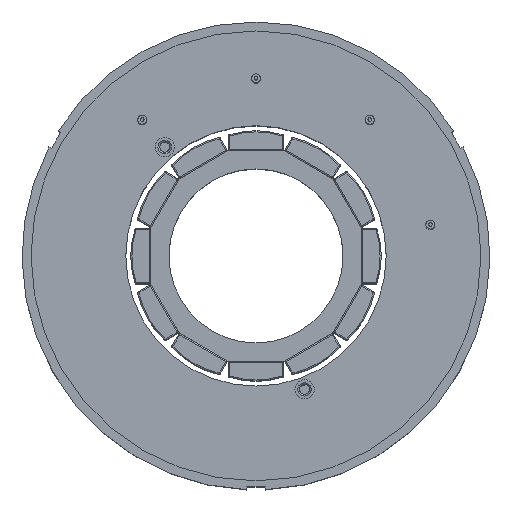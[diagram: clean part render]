
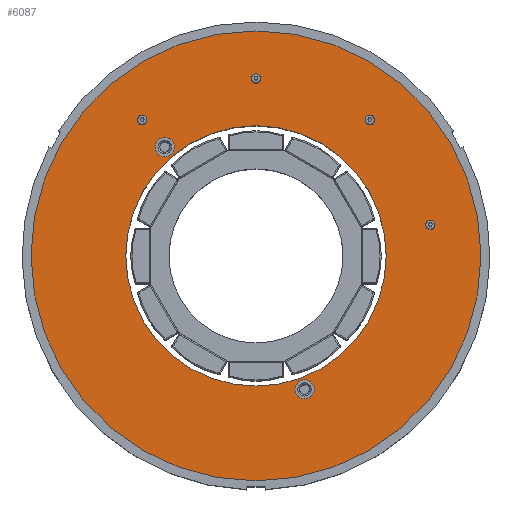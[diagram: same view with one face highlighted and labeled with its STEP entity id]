
A CAD part, top view. The second image highlights one B-rep face of the part: STEP entity #6087.
In plain terms, the highlighted planar face has unit normal (0, 0, 1).
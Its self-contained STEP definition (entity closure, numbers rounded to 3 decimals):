
#1245=PLANE('',#6717);
#1396=ORIENTED_EDGE('',*,*,#2953,.T.);
#1397=ORIENTED_EDGE('',*,*,#2955,.T.);
#1398=ORIENTED_EDGE('',*,*,#2956,.T.);
#1399=ORIENTED_EDGE('',*,*,#2957,.T.);
#1400=ORIENTED_EDGE('',*,*,#2958,.T.);
#1401=ORIENTED_EDGE('',*,*,#2959,.T.);
#1402=ORIENTED_EDGE('',*,*,#2960,.T.);
#1403=ORIENTED_EDGE('',*,*,#2961,.F.);
#2953=EDGE_CURVE('',#4062,#4062,#4794,.T.);
#2955=EDGE_CURVE('',#4064,#4064,#4796,.T.);
#2956=EDGE_CURVE('',#4065,#4065,#4797,.T.);
#2957=EDGE_CURVE('',#4066,#4066,#4798,.T.);
#2958=EDGE_CURVE('',#4067,#4067,#4799,.T.);
#2959=EDGE_CURVE('',#4068,#4068,#4800,.T.);
#2960=EDGE_CURVE('',#4069,#4069,#4801,.T.);
#2961=EDGE_CURVE('',#4070,#4070,#4802,.T.);
#4062=VERTEX_POINT('',#9141);
#4064=VERTEX_POINT('',#9146);
#4065=VERTEX_POINT('',#9149);
#4066=VERTEX_POINT('',#9151);
#4067=VERTEX_POINT('',#9153);
#4068=VERTEX_POINT('',#9155);
#4069=VERTEX_POINT('',#9157);
#4070=VERTEX_POINT('',#9159);
#4794=CIRCLE('',#6713,1.6);
#4796=CIRCLE('',#6716,1.6);
#4797=CIRCLE('',#6718,0.5);
#4798=CIRCLE('',#6719,0.5);
#4799=CIRCLE('',#6720,0.5);
#4800=CIRCLE('',#6721,0.5);
#4801=CIRCLE('',#6722,21.7);
#4802=CIRCLE('',#6723,37.5);
#5159=EDGE_LOOP('',(#1396));
#5160=EDGE_LOOP('',(#1397));
#5161=EDGE_LOOP('',(#1398));
#5162=EDGE_LOOP('',(#1399));
#5163=EDGE_LOOP('',(#1400));
#5164=EDGE_LOOP('',(#1401));
#5165=EDGE_LOOP('',(#1402));
#5166=EDGE_LOOP('',(#1403));
#5566=FACE_BOUND('',#5159,.T.);
#5567=FACE_BOUND('',#5160,.T.);
#5568=FACE_BOUND('',#5161,.T.);
#5569=FACE_BOUND('',#5162,.T.);
#5570=FACE_BOUND('',#5163,.T.);
#5571=FACE_BOUND('',#5164,.T.);
#5572=FACE_BOUND('',#5165,.T.);
#5573=FACE_BOUND('',#5166,.T.);
#6087=ADVANCED_FACE('',(#5566,#5567,#5568,#5569,#5570,#5571,#5572,#5573),
#1245,.F.);
#6713=AXIS2_PLACEMENT_3D('',#9140,#7393,#7394);
#6716=AXIS2_PLACEMENT_3D('',#9145,#7399,#7400);
#6717=AXIS2_PLACEMENT_3D('',#9147,#7401,#7402);
#6718=AXIS2_PLACEMENT_3D('',#9148,#7403,#7404);
#6719=AXIS2_PLACEMENT_3D('',#9150,#7405,#7406);
#6720=AXIS2_PLACEMENT_3D('',#9152,#7407,#7408);
#6721=AXIS2_PLACEMENT_3D('',#9154,#7409,#7410);
#6722=AXIS2_PLACEMENT_3D('',#9156,#7411,#7412);
#6723=AXIS2_PLACEMENT_3D('',#9158,#7413,#7414);
#7393=DIRECTION('',(0.,0.,-1.));
#7394=DIRECTION('',(0.,-1.,0.));
#7399=DIRECTION('',(0.,0.,-1.));
#7400=DIRECTION('',(0.,-1.,0.));
#7401=DIRECTION('',(0.,0.,-1.));
#7402=DIRECTION('',(-1.,0.,0.));
#7403=DIRECTION('',(0.,0.,-1.));
#7404=DIRECTION('',(0.,-1.,0.));
#7405=DIRECTION('',(0.,0.,-1.));
#7406=DIRECTION('',(0.,-1.,0.));
#7407=DIRECTION('',(0.,0.,-1.));
#7408=DIRECTION('',(0.,-1.,0.));
#7409=DIRECTION('',(0.,0.,-1.));
#7410=DIRECTION('',(0.,-1.,0.));
#7411=DIRECTION('',(0.,0.,-1.));
#7412=DIRECTION('',(1.,0.,0.));
#7413=DIRECTION('',(0.,0.,-1.));
#7414=DIRECTION('',(1.,0.,0.));
#9140=CARTESIAN_POINT('',(8.096,-22.243,17.5));
#9141=CARTESIAN_POINT('',(8.096,-23.843,17.5));
#9145=CARTESIAN_POINT('',(-15.215,18.132,17.5));
#9146=CARTESIAN_POINT('',(-15.215,16.532,17.5));
#9147=CARTESIAN_POINT('',(0.,0.,17.5));
#9148=CARTESIAN_POINT('',(-18.962,22.598,17.5));
#9149=CARTESIAN_POINT('',(-18.962,22.098,17.5));
#9150=CARTESIAN_POINT('',(29.052,5.123,17.5));
#9151=CARTESIAN_POINT('',(29.052,4.623,17.5));
#9152=CARTESIAN_POINT('',(18.962,22.598,17.5));
#9153=CARTESIAN_POINT('',(18.962,22.098,17.5));
#9154=CARTESIAN_POINT('',(0.,29.5,17.5));
#9155=CARTESIAN_POINT('',(0.,29.,17.5));
#9156=CARTESIAN_POINT('',(0.,0.,17.5));
#9157=CARTESIAN_POINT('',(21.7,0.,17.5));
#9158=CARTESIAN_POINT('',(0.,0.,17.5));
#9159=CARTESIAN_POINT('',(37.5,0.,17.5));
